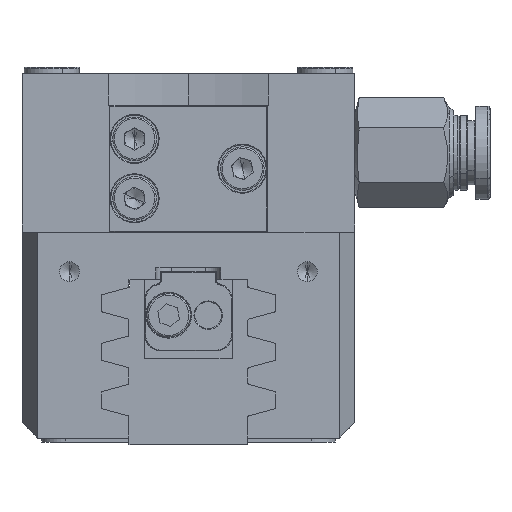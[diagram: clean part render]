
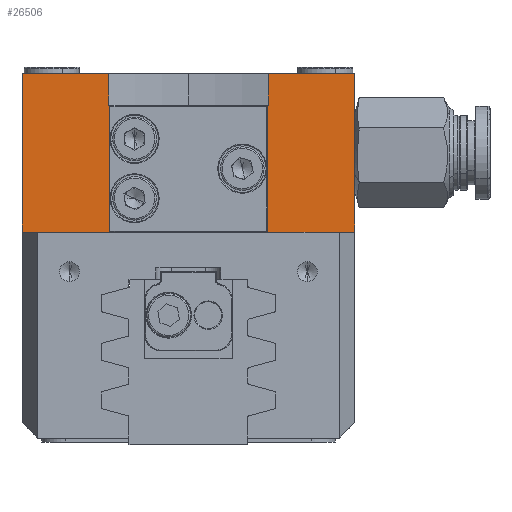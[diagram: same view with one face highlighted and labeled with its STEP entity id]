
A CAD part, left-side view. The second image highlights one B-rep face of the part: STEP entity #26506.
In plain terms, the highlighted planar face has unit normal (-1, 0, 0).
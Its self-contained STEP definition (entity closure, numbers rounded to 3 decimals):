
#1163 = CARTESIAN_POINT ( 'NONE',  ( -32.78, 2.793, 23. ) ) ;
#1167 = EDGE_LOOP ( 'NONE', ( #48661, #34968, #14054, #23511, #37271, #27331, #9047, #28724 ) ) ;
#1237 = VERTEX_POINT ( 'NONE', #51971 ) ;
#1471 = EDGE_CURVE ( 'NONE', #4788, #21794, #1947, .T. ) ;
#1947 = LINE ( 'NONE', #31493, #37270 ) ;
#2319 = LINE ( 'NONE', #48537, #11181 ) ;
#2667 = CARTESIAN_POINT ( 'NONE',  ( -32.78, 12.84, 19. ) ) ;
#4011 = CARTESIAN_POINT ( 'NONE',  ( -32.78, 29.312, 3. ) ) ;
#4788 = VERTEX_POINT ( 'NONE', #11491 ) ;
#5575 = LINE ( 'NONE', #6574, #13802 ) ;
#6371 = DIRECTION ( 'NONE',  ( 0., 0., 1. ) ) ;
#6574 = CARTESIAN_POINT ( 'NONE',  ( -32.78, -7.254, 19. ) ) ;
#8176 = EDGE_CURVE ( 'NONE', #37865, #41812, #13431, .T. ) ;
#8221 = DIRECTION ( 'NONE',  ( 0., -1., 0. ) ) ;
#8447 = DIRECTION ( 'NONE',  ( 0., 0., -1. ) ) ;
#9047 = ORIENTED_EDGE ( 'NONE', *, *, #34825, .F. ) ;
#9130 = CARTESIAN_POINT ( 'NONE',  ( -32.78, 2.793, 23. ) ) ;
#9334 = FACE_OUTER_BOUND ( 'NONE', #1167, .T. ) ;
#10720 = DIRECTION ( 'NONE',  ( 0., 0., 1. ) ) ;
#11181 = VECTOR ( 'NONE', #21047, 1000. ) ;
#11491 = CARTESIAN_POINT ( 'NONE',  ( -32.78, 12.693, 3.1 ) ) ;
#11720 = LINE ( 'NONE', #32595, #27491 ) ;
#12168 = VECTOR ( 'NONE', #33673, 1000. ) ;
#12791 = CARTESIAN_POINT ( 'NONE',  ( -32.78, 23.793, 23. ) ) ;
#13385 = VECTOR ( 'NONE', #33250, 1000. ) ;
#13431 = LINE ( 'NONE', #41107, #12168 ) ;
#13802 = VECTOR ( 'NONE', #22288, 1000. ) ;
#14054 = ORIENTED_EDGE ( 'NONE', *, *, #45818, .F. ) ;
#14678 = LINE ( 'NONE', #4011, #13385 ) ;
#15561 = CARTESIAN_POINT ( 'NONE',  ( -32.78, -7.254, 19. ) ) ;
#15644 = PLANE ( 'NONE',  #38363 ) ;
#15765 = EDGE_CURVE ( 'NONE', #42509, #41812, #14678, .T. ) ;
#15933 = LINE ( 'NONE', #32392, #30401 ) ;
#17970 = DIRECTION ( 'NONE',  ( 0., -1., 0. ) ) ;
#19509 = DIRECTION ( 'NONE',  ( 0., 1., 0. ) ) ;
#20374 = CARTESIAN_POINT ( 'NONE',  ( -32.78, 23.793, 3. ) ) ;
#20520 = CARTESIAN_POINT ( 'NONE',  ( -32.78, -7.107, 3.1 ) ) ;
#21047 = DIRECTION ( 'NONE',  ( 0., 0., 1. ) ) ;
#21794 = VERTEX_POINT ( 'NONE', #49188 ) ;
#21935 = VECTOR ( 'NONE', #17970, 1000. ) ;
#22288 = DIRECTION ( 'NONE',  ( 0., 0., -1. ) ) ;
#23116 = LINE ( 'NONE', #2667, #38935 ) ;
#23180 = DIRECTION ( 'NONE',  ( 0., -1., 0. ) ) ;
#23397 = VECTOR ( 'NONE', #38268, 1000. ) ;
#23511 = ORIENTED_EDGE ( 'NONE', *, *, #8176, .T. ) ;
#24124 = CARTESIAN_POINT ( 'NONE',  ( -32.78, -18.207, 3. ) ) ;
#25722 = VERTEX_POINT ( 'NONE', #20520 ) ;
#26058 = VERTEX_POINT ( 'NONE', #27805 ) ;
#26506 = ADVANCED_FACE ( 'NONE', ( #32040, #9334 ), #15644, .F. ) ;
#27210 = VERTEX_POINT ( 'NONE', #44082 ) ;
#27331 = ORIENTED_EDGE ( 'NONE', *, *, #47828, .T. ) ;
#27414 = CARTESIAN_POINT ( 'NONE',  ( -32.78, 29.312, 3. ) ) ;
#27491 = VECTOR ( 'NONE', #8447, 1000. ) ;
#27805 = CARTESIAN_POINT ( 'NONE',  ( -32.78, -18.207, 23. ) ) ;
#28724 = ORIENTED_EDGE ( 'NONE', *, *, #30049, .T. ) ;
#30049 = EDGE_CURVE ( 'NONE', #48450, #45154, #5575, .T. ) ;
#30143 = CARTESIAN_POINT ( 'NONE',  ( -32.78, 12.793, 3.1 ) ) ;
#30401 = VECTOR ( 'NONE', #8221, 1000. ) ;
#31130 = CARTESIAN_POINT ( 'NONE',  ( -32.78, 29.312, 19. ) ) ;
#31493 = CARTESIAN_POINT ( 'NONE',  ( -32.78, 12.693, 19. ) ) ;
#32009 = EDGE_CURVE ( 'NONE', #25722, #4788, #46143, .T. ) ;
#32040 = FACE_BOUND ( 'NONE', #35290, .T. ) ;
#32232 = CARTESIAN_POINT ( 'NONE',  ( -32.78, -7.254, 23. ) ) ;
#32392 = CARTESIAN_POINT ( 'NONE',  ( -32.78, -7.207, 18.9 ) ) ;
#32595 = CARTESIAN_POINT ( 'NONE',  ( -32.78, -7.107, 3. ) ) ;
#32726 = ORIENTED_EDGE ( 'NONE', *, *, #42446, .T. ) ;
#32881 = ORIENTED_EDGE ( 'NONE', *, *, #32009, .T. ) ;
#33250 = DIRECTION ( 'NONE',  ( 0., 1., 0. ) ) ;
#33673 = DIRECTION ( 'NONE',  ( 0., 0., -1. ) ) ;
#33896 = EDGE_CURVE ( 'NONE', #1237, #27210, #23116, .T. ) ;
#34551 = VECTOR ( 'NONE', #45436, 1000. ) ;
#34825 = EDGE_CURVE ( 'NONE', #48450, #26058, #39637, .T. ) ;
#34968 = ORIENTED_EDGE ( 'NONE', *, *, #33896, .T. ) ;
#35290 = EDGE_LOOP ( 'NONE', ( #48643, #39445, #32726, #32881 ) ) ;
#37270 = VECTOR ( 'NONE', #10720, 1000. ) ;
#37271 = ORIENTED_EDGE ( 'NONE', *, *, #15765, .F. ) ;
#37865 = VERTEX_POINT ( 'NONE', #12791 ) ;
#38268 = DIRECTION ( 'NONE',  ( 0., 1., 0. ) ) ;
#38363 = AXIS2_PLACEMENT_3D ( 'NONE', #27414, #43797, #19509 ) ;
#38935 = VECTOR ( 'NONE', #6371, 1000. ) ;
#39445 = ORIENTED_EDGE ( 'NONE', *, *, #49475, .T. ) ;
#39637 = LINE ( 'NONE', #9130, #34551 ) ;
#40807 = EDGE_CURVE ( 'NONE', #1237, #45154, #51098, .T. ) ;
#41107 = CARTESIAN_POINT ( 'NONE',  ( -32.78, 23.793, -23. ) ) ;
#41812 = VERTEX_POINT ( 'NONE', #20374 ) ;
#42446 = EDGE_CURVE ( 'NONE', #44777, #25722, #11720, .T. ) ;
#42509 = VERTEX_POINT ( 'NONE', #24124 ) ;
#43797 = DIRECTION ( 'NONE',  ( 1., 0., 0. ) ) ;
#44082 = CARTESIAN_POINT ( 'NONE',  ( -32.78, 12.84, 23. ) ) ;
#44736 = VECTOR ( 'NONE', #23180, 1000. ) ;
#44777 = VERTEX_POINT ( 'NONE', #49092 ) ;
#45154 = VERTEX_POINT ( 'NONE', #15561 ) ;
#45436 = DIRECTION ( 'NONE',  ( 0., -1., 0. ) ) ;
#45818 = EDGE_CURVE ( 'NONE', #37865, #27210, #48458, .T. ) ;
#46143 = LINE ( 'NONE', #30143, #23397 ) ;
#47828 = EDGE_CURVE ( 'NONE', #42509, #26058, #2319, .T. ) ;
#48450 = VERTEX_POINT ( 'NONE', #32232 ) ;
#48458 = LINE ( 'NONE', #1163, #21935 ) ;
#48537 = CARTESIAN_POINT ( 'NONE',  ( -32.78, -18.207, -23. ) ) ;
#48643 = ORIENTED_EDGE ( 'NONE', *, *, #1471, .T. ) ;
#48661 = ORIENTED_EDGE ( 'NONE', *, *, #40807, .F. ) ;
#49092 = CARTESIAN_POINT ( 'NONE',  ( -32.78, -7.107, 18.9 ) ) ;
#49188 = CARTESIAN_POINT ( 'NONE',  ( -32.78, 12.693, 18.9 ) ) ;
#49475 = EDGE_CURVE ( 'NONE', #21794, #44777, #15933, .T. ) ;
#51098 = LINE ( 'NONE', #31130, #44736 ) ;
#51971 = CARTESIAN_POINT ( 'NONE',  ( -32.78, 12.84, 19. ) ) ;
